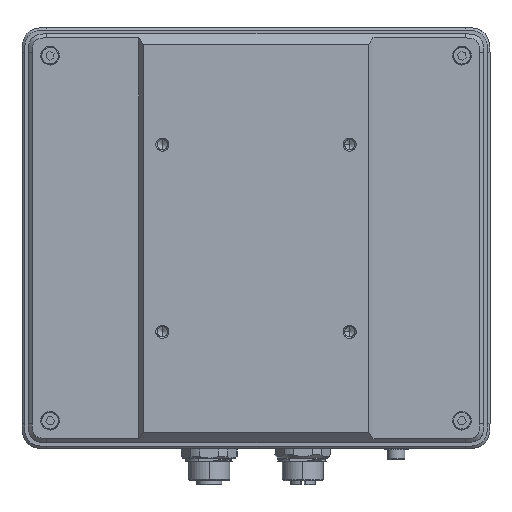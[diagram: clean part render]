
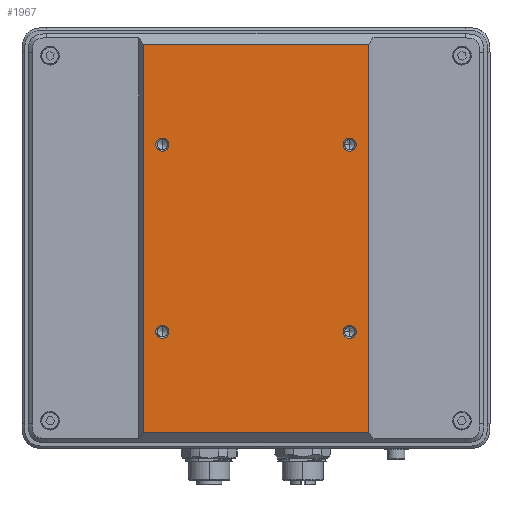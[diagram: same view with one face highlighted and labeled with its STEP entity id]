
A CAD part, front view. The second image highlights one B-rep face of the part: STEP entity #1967.
In plain terms, the highlighted planar face has unit normal (0, -1, 0).
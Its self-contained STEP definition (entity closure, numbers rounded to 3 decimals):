
#41=FACE_BOUND('',#3528,.T.);
#42=FACE_BOUND('',#3529,.T.);
#43=FACE_BOUND('',#3530,.T.);
#44=FACE_BOUND('',#3531,.T.);
#1967=ADVANCED_FACE('',(#2732,#41,#42,#43,#44),#13177,.T.);
#2732=FACE_OUTER_BOUND('',#3527,.T.);
#3527=EDGE_LOOP('',(#4736,#4737,#4738,#4739));
#3528=EDGE_LOOP('',(#4740,#4741));
#3529=EDGE_LOOP('',(#4742,#4743));
#3530=EDGE_LOOP('',(#4744,#4745));
#3531=EDGE_LOOP('',(#4746,#4747));
#4736=ORIENTED_EDGE('',*,*,#8299,.T.);
#4737=ORIENTED_EDGE('',*,*,#8293,.F.);
#4738=ORIENTED_EDGE('',*,*,#8298,.T.);
#4739=ORIENTED_EDGE('',*,*,#8295,.F.);
#4740=ORIENTED_EDGE('',*,*,#8343,.T.);
#4741=ORIENTED_EDGE('',*,*,#8132,.T.);
#4742=ORIENTED_EDGE('',*,*,#8143,.T.);
#4743=ORIENTED_EDGE('',*,*,#8340,.T.);
#4744=ORIENTED_EDGE('',*,*,#8154,.T.);
#4745=ORIENTED_EDGE('',*,*,#8337,.T.);
#4746=ORIENTED_EDGE('',*,*,#8163,.T.);
#4747=ORIENTED_EDGE('',*,*,#8334,.T.);
#8132=EDGE_CURVE('',#11851,#11850,#9947,.T.);
#8143=EDGE_CURVE('',#11859,#11858,#9951,.T.);
#8154=EDGE_CURVE('',#11867,#11866,#9955,.T.);
#8163=EDGE_CURVE('',#11874,#11873,#9958,.T.);
#8293=EDGE_CURVE('',#12058,#12059,#10673,.T.);
#8295=EDGE_CURVE('',#12060,#12061,#10675,.T.);
#8298=EDGE_CURVE('',#12058,#12061,#10678,.T.);
#8299=EDGE_CURVE('',#12060,#12059,#10679,.T.);
#8334=EDGE_CURVE('',#11873,#11874,#9962,.T.);
#8337=EDGE_CURVE('',#11866,#11867,#9965,.T.);
#8340=EDGE_CURVE('',#11858,#11859,#9968,.T.);
#8343=EDGE_CURVE('',#11850,#11851,#9971,.T.);
#9947=(
BOUNDED_CURVE()
B_SPLINE_CURVE(2,(#27546,#27547,#27548,#27549,#27550),.UNSPECIFIED.,.F.,
 .F.)
B_SPLINE_CURVE_WITH_KNOTS((3,2,3),(-6.597,-3.299,
0.),.UNSPECIFIED.)
CURVE()
GEOMETRIC_REPRESENTATION_ITEM()
RATIONAL_B_SPLINE_CURVE((1.,0.707,1.,0.707,1.))
REPRESENTATION_ITEM('')
);
#9951=(
BOUNDED_CURVE()
B_SPLINE_CURVE(2,(#27576,#27577,#27578,#27579,#27580),.UNSPECIFIED.,.F.,
 .F.)
B_SPLINE_CURVE_WITH_KNOTS((3,2,3),(-6.597,-3.299,
0.),.UNSPECIFIED.)
CURVE()
GEOMETRIC_REPRESENTATION_ITEM()
RATIONAL_B_SPLINE_CURVE((1.,0.707,1.,0.707,1.))
REPRESENTATION_ITEM('')
);
#9955=(
BOUNDED_CURVE()
B_SPLINE_CURVE(2,(#27606,#27607,#27608,#27609,#27610),.UNSPECIFIED.,.F.,
 .F.)
B_SPLINE_CURVE_WITH_KNOTS((3,2,3),(-6.597,-3.299,
0.),.UNSPECIFIED.)
CURVE()
GEOMETRIC_REPRESENTATION_ITEM()
RATIONAL_B_SPLINE_CURVE((1.,0.707,1.,0.707,1.))
REPRESENTATION_ITEM('')
);
#9958=(
BOUNDED_CURVE()
B_SPLINE_CURVE(2,(#27633,#27634,#27635,#27636,#27637),.UNSPECIFIED.,.F.,
 .F.)
B_SPLINE_CURVE_WITH_KNOTS((3,2,3),(-6.597,-3.299,
0.),.UNSPECIFIED.)
CURVE()
GEOMETRIC_REPRESENTATION_ITEM()
RATIONAL_B_SPLINE_CURVE((1.,0.707,1.,0.707,1.))
REPRESENTATION_ITEM('')
);
#9962=(
BOUNDED_CURVE()
B_SPLINE_CURVE(2,(#29623,#29624,#29625,#29626,#29627),.UNSPECIFIED.,.F.,
 .F.)
B_SPLINE_CURVE_WITH_KNOTS((3,2,3),(-6.597,-3.299,
0.),.UNSPECIFIED.)
CURVE()
GEOMETRIC_REPRESENTATION_ITEM()
RATIONAL_B_SPLINE_CURVE((1.,0.707,1.,0.707,1.))
REPRESENTATION_ITEM('')
);
#9965=(
BOUNDED_CURVE()
B_SPLINE_CURVE(2,(#29638,#29639,#29640,#29641,#29642),.UNSPECIFIED.,.F.,
 .F.)
B_SPLINE_CURVE_WITH_KNOTS((3,2,3),(-6.597,-3.299,
0.),.UNSPECIFIED.)
CURVE()
GEOMETRIC_REPRESENTATION_ITEM()
RATIONAL_B_SPLINE_CURVE((1.,0.707,1.,0.707,1.))
REPRESENTATION_ITEM('')
);
#9968=(
BOUNDED_CURVE()
B_SPLINE_CURVE(2,(#29653,#29654,#29655,#29656,#29657),.UNSPECIFIED.,.F.,
 .F.)
B_SPLINE_CURVE_WITH_KNOTS((3,2,3),(-6.597,-3.299,
0.),.UNSPECIFIED.)
CURVE()
GEOMETRIC_REPRESENTATION_ITEM()
RATIONAL_B_SPLINE_CURVE((1.,0.707,1.,0.707,1.))
REPRESENTATION_ITEM('')
);
#9971=(
BOUNDED_CURVE()
B_SPLINE_CURVE(2,(#29668,#29669,#29670,#29671,#29672),.UNSPECIFIED.,.F.,
 .F.)
B_SPLINE_CURVE_WITH_KNOTS((3,2,3),(-6.597,-3.299,
0.),.UNSPECIFIED.)
CURVE()
GEOMETRIC_REPRESENTATION_ITEM()
RATIONAL_B_SPLINE_CURVE((1.,0.707,1.,0.707,1.))
REPRESENTATION_ITEM('')
);
#10673=B_SPLINE_CURVE_WITH_KNOTS('',1,(#28331,#28332),.UNSPECIFIED.,.F.,
 .F.,(2,2),(0.,124.4),.UNSPECIFIED.);
#10675=B_SPLINE_CURVE_WITH_KNOTS('',1,(#28335,#28336),.UNSPECIFIED.,.F.,
 .F.,(2,2),(0.,124.4),.UNSPECIFIED.);
#10678=B_SPLINE_CURVE_WITH_KNOTS('',1,(#28341,#28342),.UNSPECIFIED.,.F.,
 .F.,(2,2),(0.,72.199),.UNSPECIFIED.);
#10679=B_SPLINE_CURVE_WITH_KNOTS('',1,(#28343,#28344),.UNSPECIFIED.,.F.,
 .F.,(2,2),(0.,72.199),.UNSPECIFIED.);
#11850=VERTEX_POINT('',#26184);
#11851=VERTEX_POINT('',#26185);
#11858=VERTEX_POINT('',#26192);
#11859=VERTEX_POINT('',#26193);
#11866=VERTEX_POINT('',#26200);
#11867=VERTEX_POINT('',#26201);
#11873=VERTEX_POINT('',#26207);
#11874=VERTEX_POINT('',#26208);
#12058=VERTEX_POINT('',#26392);
#12059=VERTEX_POINT('',#26393);
#12060=VERTEX_POINT('',#26394);
#12061=VERTEX_POINT('',#26395);
#13177=PLANE('',#13672);
#13672=AXIS2_PLACEMENT_3D('',#15268,#14254,$);
#14254=DIRECTION('',(0.,-1.,0.));
#15268=CARTESIAN_POINT('',(-43.32,-2.,-74.64));
#26184=CARTESIAN_POINT('',(30.,-2.,-27.9));
#26185=CARTESIAN_POINT('',(30.,-2.,-32.1));
#26192=CARTESIAN_POINT('',(30.,-2.,32.1));
#26193=CARTESIAN_POINT('',(30.,-2.,27.9));
#26200=CARTESIAN_POINT('',(-30.,-2.,32.1));
#26201=CARTESIAN_POINT('',(-30.,-2.,27.9));
#26207=CARTESIAN_POINT('',(-30.,-2.,-27.9));
#26208=CARTESIAN_POINT('',(-30.,-2.,-32.1));
#26392=CARTESIAN_POINT('',(36.1,-2.,62.2));
#26393=CARTESIAN_POINT('',(36.1,-2.,-62.2));
#26394=CARTESIAN_POINT('',(-36.1,-2.,-62.2));
#26395=CARTESIAN_POINT('',(-36.1,-2.,62.2));
#27546=CARTESIAN_POINT('',(30.,-2.,-32.1));
#27547=CARTESIAN_POINT('',(27.9,-2.,-32.1));
#27548=CARTESIAN_POINT('',(27.9,-2.,-30.));
#27549=CARTESIAN_POINT('',(27.9,-2.,-27.9));
#27550=CARTESIAN_POINT('',(30.,-2.,-27.9));
#27576=CARTESIAN_POINT('',(30.,-2.,27.9));
#27577=CARTESIAN_POINT('',(27.9,-2.,27.9));
#27578=CARTESIAN_POINT('',(27.9,-2.,30.));
#27579=CARTESIAN_POINT('',(27.9,-2.,32.1));
#27580=CARTESIAN_POINT('',(30.,-2.,32.1));
#27606=CARTESIAN_POINT('',(-30.,-2.,27.9));
#27607=CARTESIAN_POINT('',(-32.1,-2.,27.9));
#27608=CARTESIAN_POINT('',(-32.1,-2.,30.));
#27609=CARTESIAN_POINT('',(-32.1,-2.,32.1));
#27610=CARTESIAN_POINT('',(-30.,-2.,32.1));
#27633=CARTESIAN_POINT('',(-30.,-2.,-32.1));
#27634=CARTESIAN_POINT('',(-32.1,-2.,-32.1));
#27635=CARTESIAN_POINT('',(-32.1,-2.,-30.));
#27636=CARTESIAN_POINT('',(-32.1,-2.,-27.9));
#27637=CARTESIAN_POINT('',(-30.,-2.,-27.9));
#28331=CARTESIAN_POINT('',(36.1,-2.,62.2));
#28332=CARTESIAN_POINT('',(36.1,-2.,-62.2));
#28335=CARTESIAN_POINT('',(-36.1,-2.,-62.2));
#28336=CARTESIAN_POINT('',(-36.1,-2.,62.2));
#28341=CARTESIAN_POINT('',(36.1,-2.,62.2));
#28342=CARTESIAN_POINT('',(-36.1,-2.,62.2));
#28343=CARTESIAN_POINT('',(-36.1,-2.,-62.2));
#28344=CARTESIAN_POINT('',(36.1,-2.,-62.2));
#29623=CARTESIAN_POINT('',(-30.,-2.,-27.9));
#29624=CARTESIAN_POINT('',(-27.9,-2.,-27.9));
#29625=CARTESIAN_POINT('',(-27.9,-2.,-30.));
#29626=CARTESIAN_POINT('',(-27.9,-2.,-32.1));
#29627=CARTESIAN_POINT('',(-30.,-2.,-32.1));
#29638=CARTESIAN_POINT('',(-30.,-2.,32.1));
#29639=CARTESIAN_POINT('',(-27.9,-2.,32.1));
#29640=CARTESIAN_POINT('',(-27.9,-2.,30.));
#29641=CARTESIAN_POINT('',(-27.9,-2.,27.9));
#29642=CARTESIAN_POINT('',(-30.,-2.,27.9));
#29653=CARTESIAN_POINT('',(30.,-2.,32.1));
#29654=CARTESIAN_POINT('',(32.1,-2.,32.1));
#29655=CARTESIAN_POINT('',(32.1,-2.,30.));
#29656=CARTESIAN_POINT('',(32.1,-2.,27.9));
#29657=CARTESIAN_POINT('',(30.,-2.,27.9));
#29668=CARTESIAN_POINT('',(30.,-2.,-27.9));
#29669=CARTESIAN_POINT('',(32.1,-2.,-27.9));
#29670=CARTESIAN_POINT('',(32.1,-2.,-30.));
#29671=CARTESIAN_POINT('',(32.1,-2.,-32.1));
#29672=CARTESIAN_POINT('',(30.,-2.,-32.1));
